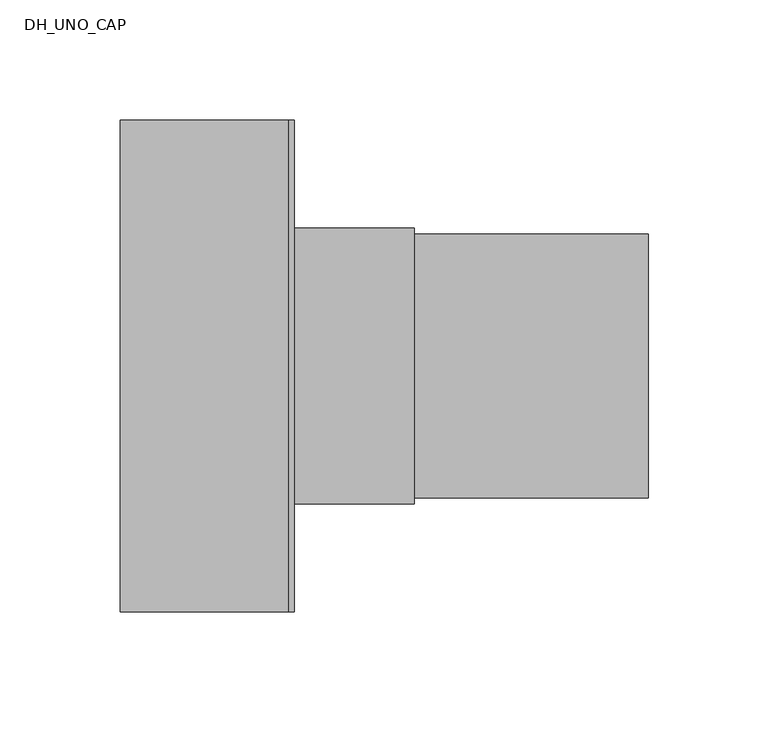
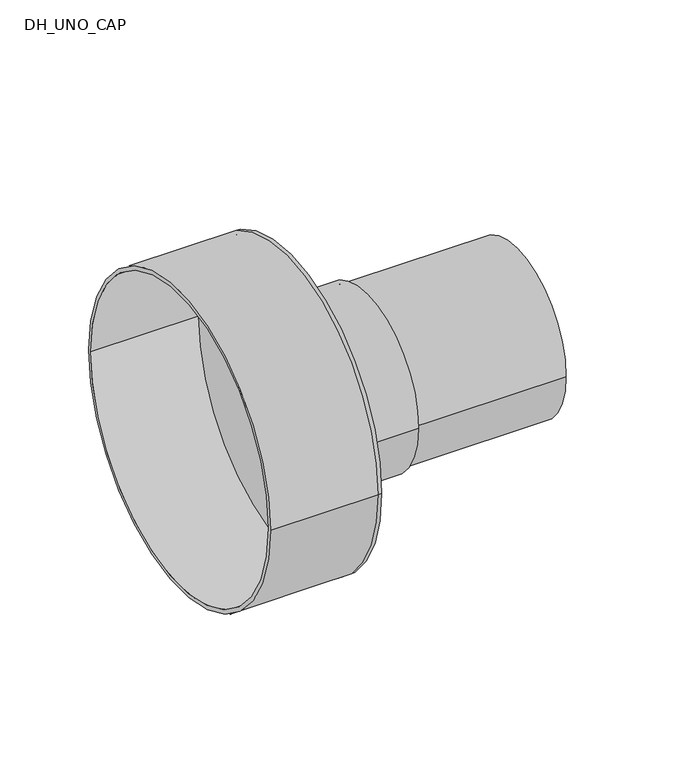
"""IFC4 building model written with IfcOpenShell, lengths in millimetres: pipe fitting geometry, DH_UNO_CAP : INSULPEX UNO ++ 11 Heating - Rubber Cap."""

from ifc_helpers import new_model, si_unit, point, frame, origin, origin_2d, place, context, project, spatial, polyline, circle_curve, trimmed, segment, composite_curve, outline, extrude, source, transform, mapped, element, save
from ifc_brep_helpers import plane_surface, cylinder_surface, revolved_surface, advanced_brep


def dh_uno_cap_ab5e3a51(model_context):
    return source(origin(), model_context, "Body", "SolidModel", [
        extrude(outline(composite_curve([segment(trimmed(circle_curve(origin_2d(), 55.0), [point((-55.0, 0.0))], [point((55.0, 0.0))], False, "CARTESIAN"), True, "CONTINUOUS"), segment(trimmed(circle_curve(origin_2d(), 55.0), [point((55.0, 0.0))], [point((-55.0, 0.0))], False, "CARTESIAN"), True, "CONTINUOUS")], self_intersect=False), holes=[composite_curve([segment(trimmed(circle_curve(origin_2d(), 45.0), [point((-45.0, 0.0))], [point((45.0, 0.0))], True, "CARTESIAN"), True, "CONTINUOUS"), segment(trimmed(circle_curve(origin_2d(), 45.0), [point((45.0, 0.0))], [point((-45.0, 0.0))], True, "CARTESIAN"), True, "CONTINUOUS")], self_intersect=False)]), frame((0.0, 0.0, 0.0), z_axis=(1.0, 0.0, 0.0), x_axis=(0.0, 1.0, 0.0)), (0.0, 0.0, 1.0), 150.0),
        advanced_brep(
        [(-70.0, -102.5, 0.0), (-70.0, 102.5, 0.0), (-70.0, -100.0, 0.0), (-70.0, 100.0, 0.0), (0.0, -100.0, 0.0), (0.0, 100.0, 0.0), (0.0, -102.5, 0.0), (0.0, 102.5, 0.0), (0.0, 55.0, 0.0), (0.0, -55.0, 0.0), (2.5, -102.5, 0.0), (2.5, 102.5, 0.0), (2.5, -55.0, 0.0), (2.5, 55.0, 0.0)],
        [
            (0, 1, circle_curve(frame((-70.0, 0.0, 0.0), z_axis=(-1.0, 0.0, 0.0), x_axis=(0.0, 1.0, 0.0)), 102.5)),
            (1, 0, circle_curve(frame((-70.0, 0.0, 0.0), z_axis=(-1.0, 0.0, 0.0), x_axis=(0.0, 1.0, 0.0)), 102.5)),
            (2, 3, circle_curve(frame((-70.0, 0.0, 0.0), z_axis=(1.0, 0.0, 0.0), x_axis=(0.0, 1.0, 0.0)), 100.0)),
            (3, 2, circle_curve(frame((-70.0, 0.0, 0.0), z_axis=(1.0, 0.0, 0.0), x_axis=(0.0, 1.0, 0.0)), 100.0)),
            (2, 4),
            (4, 5, circle_curve(frame((0.0, 0.0, 0.0), z_axis=(1.0, 0.0, 0.0), x_axis=(0.0, 1.0, 0.0)), 100.0)),
            (5, 3),
            (5, 4, circle_curve(frame((0.0, 0.0, 0.0), z_axis=(1.0, 0.0, 0.0), x_axis=(0.0, 1.0, 0.0)), 100.0)),
            (0, 6),
            (6, 7, circle_curve(frame((0.0, 0.0, 0.0), z_axis=(-1.0, 0.0, 0.0), x_axis=(0.0, 1.0, 0.0)), 102.5)),
            (7, 1),
            (7, 6, circle_curve(frame((0.0, 0.0, 0.0), z_axis=(-1.0, 0.0, 0.0), x_axis=(0.0, 1.0, 0.0)), 102.5)),
            (8, 9, circle_curve(frame((0.0, 0.0, 0.0), z_axis=(1.0, 0.0, 0.0), x_axis=(0.0, 1.0, 0.0)), 55.0)),
            (9, 8, circle_curve(frame((0.0, 0.0, 0.0), z_axis=(1.0, 0.0, 0.0), x_axis=(0.0, 1.0, 0.0)), 55.0)),
            (10, 11, circle_curve(frame((2.5, 0.0, 0.0), z_axis=(1.0, 0.0, 0.0), x_axis=(0.0, 1.0, 0.0)), 102.5)),
            (11, 10, circle_curve(frame((2.5, 0.0, 0.0), z_axis=(1.0, 0.0, 0.0), x_axis=(0.0, 1.0, 0.0)), 102.5)),
            (12, 13, circle_curve(frame((2.5, 0.0, 0.0), z_axis=(-1.0, 0.0, 0.0), x_axis=(0.0, 1.0, 0.0)), 55.0)),
            (13, 12, circle_curve(frame((2.5, 0.0, 0.0), z_axis=(-1.0, 0.0, 0.0), x_axis=(0.0, 1.0, 0.0)), 55.0)),
            (11, 7),
            (6, 10),
            (8, 13),
            (12, 9),
        ],
        [
            plane_surface(frame((-70.0, 0.0, 0.0), z_axis=(-1.0, 0.0, 0.0), x_axis=(0.0, 0.0, 1.0))),
            revolved_surface(polyline([(0.0, 100.0, 0.0), (-70.0, 100.0, 0.0)]), (-70.0, 0.0, 0.0), (1.0, 0.0, 0.0)),
            cylinder_surface(frame((-70.0, 0.0, 0.0), z_axis=(-1.0, 0.0, 0.0), x_axis=(0.0, 1.0, 0.0)), 102.5),
            plane_surface(frame((0.0, 0.0, 0.0), z_axis=(-1.0, 0.0, 0.0), x_axis=(0.0, 0.0, 1.0))),
            plane_surface(frame((2.5, 0.0, 0.0), z_axis=(1.0, 0.0, 0.0), x_axis=(0.0, 0.0, 1.0))),
            cylinder_surface(frame((0.0, 0.0, 0.0), z_axis=(-1.0, 0.0, 0.0), x_axis=(0.0, 1.0, 0.0)), 102.5),
            revolved_surface(polyline([(0.0, 55.0, 0.0), (2.5, 55.0, 0.0)]), (0.0, 0.0, 0.0), (-1.0, 0.0, 0.0)),
        ],
        [
            (0, [[1, 2], [3, 4]]),
            (1, [[-3, 5, 6, 7]]),
            (1, [[-4, -7, 8, -5]]),
            (2, [[-1, 9, 10, 11]]),
            (2, [[-2, -11, 12, -9]]),
            (3, [[-6, -8], [13, 14]]),
            (4, [[15, 16], [17, 18]]),
            (5, [[-16, 19, -10, 20]]),
            (5, [[-15, -20, -12, -19]]),
            (6, [[21, -17, 22, -13]]),
            (6, [[-21, -14, -22, -18]]),
        ],
    ),
        extrude(outline(composite_curve([segment(trimmed(circle_curve(origin_2d(), 57.5), [point((-57.5, 0.0))], [point((57.5, 0.0))], False, "CARTESIAN"), True, "CONTINUOUS"), segment(trimmed(circle_curve(origin_2d(), 57.5), [point((57.5, 0.0))], [point((-57.5, 0.0))], False, "CARTESIAN"), True, "CONTINUOUS")], self_intersect=False), holes=[composite_curve([segment(trimmed(circle_curve(origin_2d(), 55.0), [point((-55.0, 0.0))], [point((55.0, 0.0))], True, "CARTESIAN"), True, "CONTINUOUS"), segment(trimmed(circle_curve(origin_2d(), 55.0), [point((55.0, 0.0))], [point((-55.0, 0.0))], True, "CARTESIAN"), True, "CONTINUOUS")], self_intersect=False)]), frame((2.5, 0.0, 0.0), z_axis=(1.0, 0.0, 0.0), x_axis=(0.0, 1.0, 0.0)), (0.0, 0.0, 1.0), 50.0),
    ])


if __name__ == "__main__":
    model = new_model("IFC4")
    model_context = context("Model", 3, world=origin())
    ifc_project = project(units=[si_unit("LENGTHUNIT", "METRE", prefix="MILLI")], contexts=[model_context])
    site = spatial("IfcSite", under=ifc_project)
    building = spatial("IfcBuilding", under=site)
    placement = place(None, origin())
    dh_uno_cap_shape = dh_uno_cap_ab5e3a51(model_context)
    element("IfcPipeFitting", 1, ObjectType="DH_UNO_CAP : INSULPEX UNO ++ 11 Heating - Rubber Cap", at=placement, inside=building, context=model_context, shape_type="MappedRepresentation", body=[
        mapped(dh_uno_cap_shape, transform((0.0, 0.0, 0.0), x_axis=(1.0, 0.0, 0.0), y_axis=(0.0, 1.0, 0.0), z_axis=(0.0, 0.0, 1.0))),
    ])
    save(model, "model.ifc")
